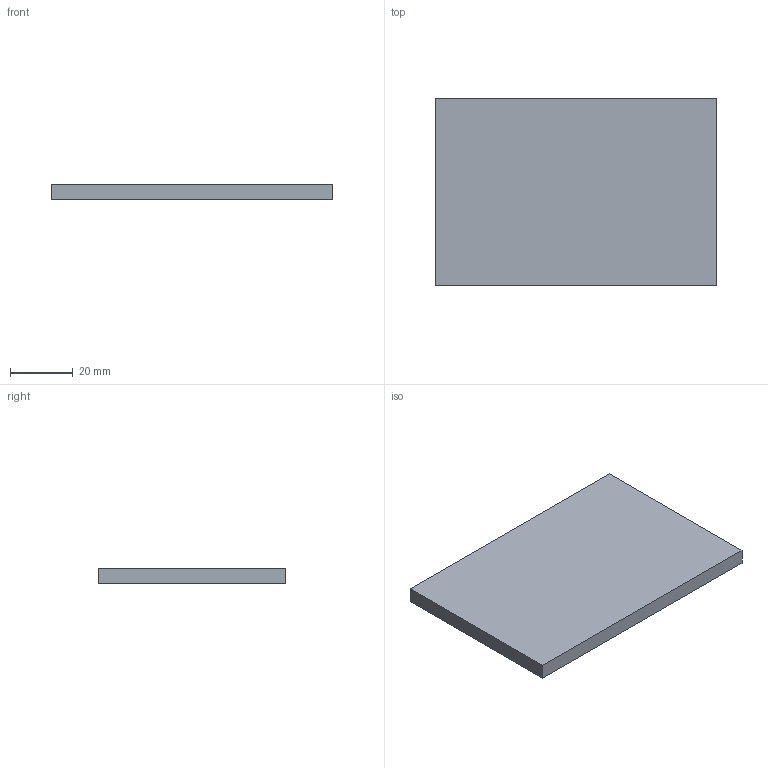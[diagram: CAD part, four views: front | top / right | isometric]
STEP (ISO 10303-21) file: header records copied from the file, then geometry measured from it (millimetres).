
FILE_DESCRIPTION((''),'2;1');
FILE_NAME('C:\Documents and Settings\AMS8\デスクトップ\2013from西村作業用\既存3D\エンドキャップiges\ECP-6090-6.stp','2013-08-06T13:49:58',('AMS8'),(''),'Autodesk Inventor 2008','Autodesk Inventor 2008','');
FILE_SCHEMA(('AUTOMOTIVE_DESIGN { 1 0 10303 214 1 1 1 1 }'));
Length unit declared in the file: millimetre
Products named in the file (1): ECP-6090-6
Bounding box: 90 x 60 x 5 mm (x, y, z)
Volume: 27000 mm3; surface area: 12300 mm2
Topology: 1 solids, 1 shells, 6 faces, 12 edges, 8 vertices
Faces by surface type: plane 6
Entity records: 182 total; most frequent: CARTESIAN_POINT 27, DIRECTION 26, ORIENTED_EDGE 24, VECTOR 12, LINE 12, EDGE_CURVE 12, VERTEX_POINT 8, AXIS2_PLACEMENT_3D 7
